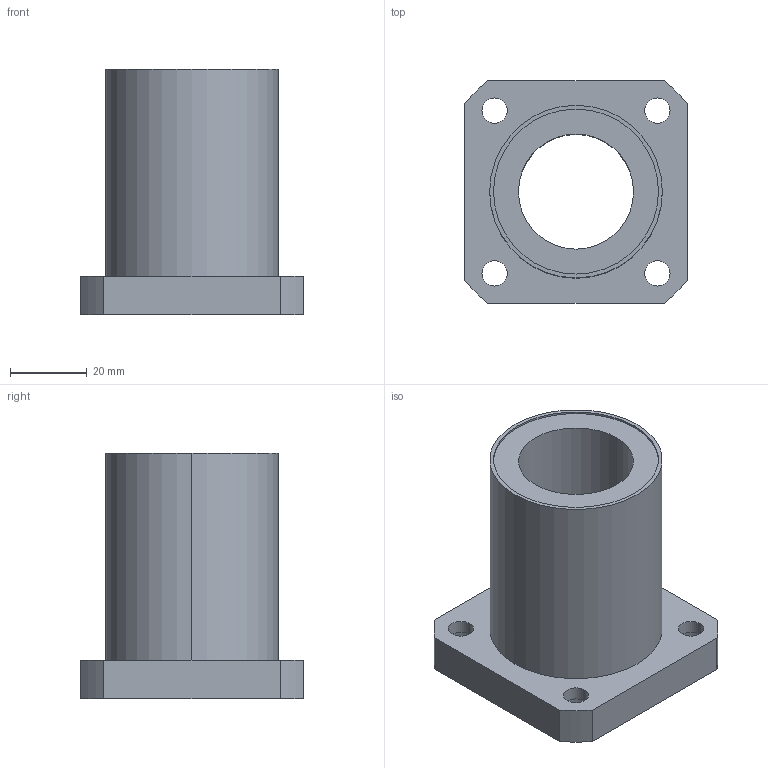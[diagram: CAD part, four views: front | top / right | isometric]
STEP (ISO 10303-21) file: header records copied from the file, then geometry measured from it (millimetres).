
FILE_DESCRIPTION((''),'2;1');
FILE_NAME('C:\Documents and Settings\ｿﾀﾀ蠑ｷ1\ｹﾙﾅﾁ ﾈｭｸ饅\ｺﾎﾇｰﾆﾄﾀﾏ\ﾁｦﾇｰ\LMK__UU\LMK30UU.stp','2005-06-15T09:49:07',('ｿﾀﾀ蠑ｷ1'),(''),'Autodesk Inventor 9','Autodesk Inventor 9','');
FILE_SCHEMA(('AUTOMOTIVE_DESIGN { 1 0 10303 214 1 1 1 1 }'));
Length unit declared in the file: millimetre
Products named in the file (1): LMK__
Bounding box: 58 x 58 x 64 mm (x, y, z)
Volume: 69478 mm3; surface area: 22005.5 mm2
Topology: 1 solids, 1 shells, 44 faces, 102 edges, 68 vertices
Faces by surface type: cylinder 30, plane 14
Entity records: 1329 total; most frequent: DIRECTION 252, CARTESIAN_POINT 215, ORIENTED_EDGE 204, AXIS2_PLACEMENT_3D 105, EDGE_CURVE 102, VERTEX_POINT 68, EDGE_LOOP 62, CIRCLE 60
